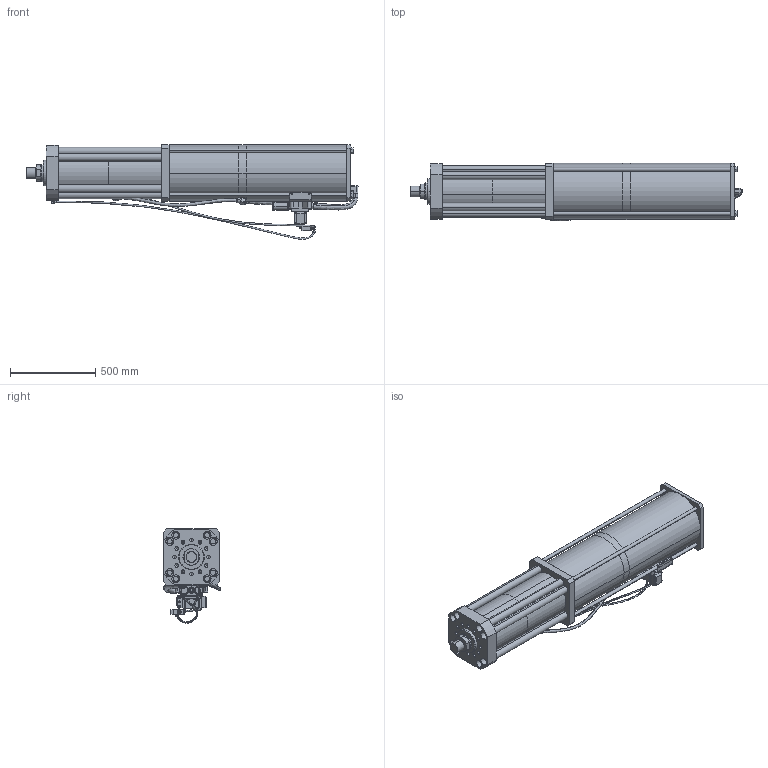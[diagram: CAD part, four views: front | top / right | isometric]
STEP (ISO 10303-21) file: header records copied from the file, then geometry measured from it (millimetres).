
FILE_DESCRIPTION (( 'STEP AP214' ), '1' );
FILE_NAME ('BS75-200-24.STEP', '2025-06-25T07:53:52', ( 'Ranlm' ), ( '' ), 'SwSTEP 2.0', 'SolidWorks 2022', '' );
FILE_SCHEMA (( 'AUTOMOTIVE_DESIGN' ));
Length unit declared in the file: millimetre
Products named in the file (1): BS75-200-24
Bounding box: 1952 x 338.22 x 555.37 mm (x, y, z)
Volume: 149456378.9 mm3; surface area: 4735082.6 mm2
Topology: 41 solids, 41 shells, 1484 faces, 3465 edges, 2165 vertices
Faces by surface type: plane 643, cylinder 531, cone 242, bspline 44, torus 22, sphere 2
Entity records: 64571 total; most frequent: CARTESIAN_POINT 13820, DIRECTION 7282, ORIENTED_EDGE 6802, EDGE_CURVE 3401, AXIS2_PLACEMENT_3D 2732, VERTEX_POINT 2163, LINE 1818, VECTOR 1818
